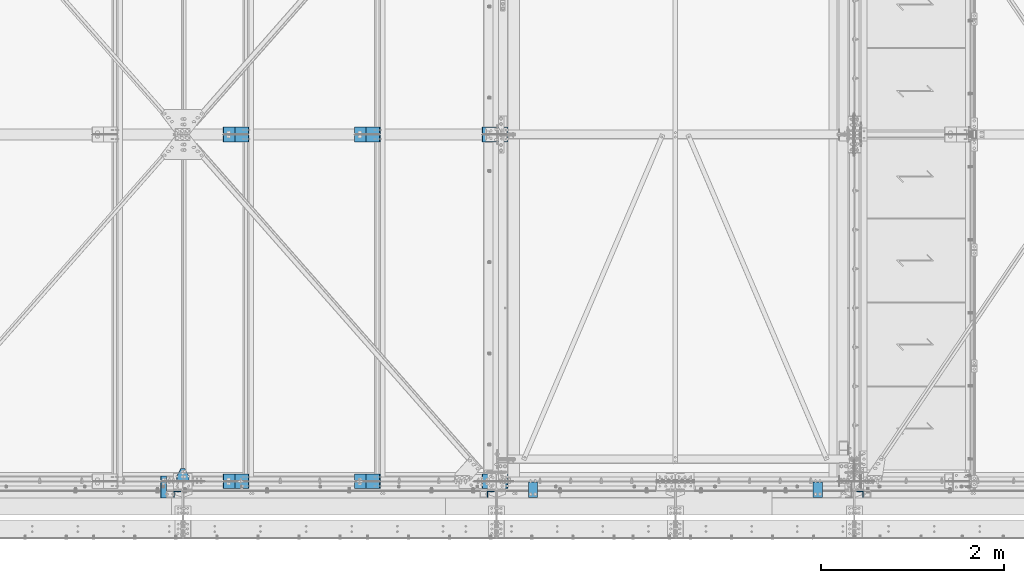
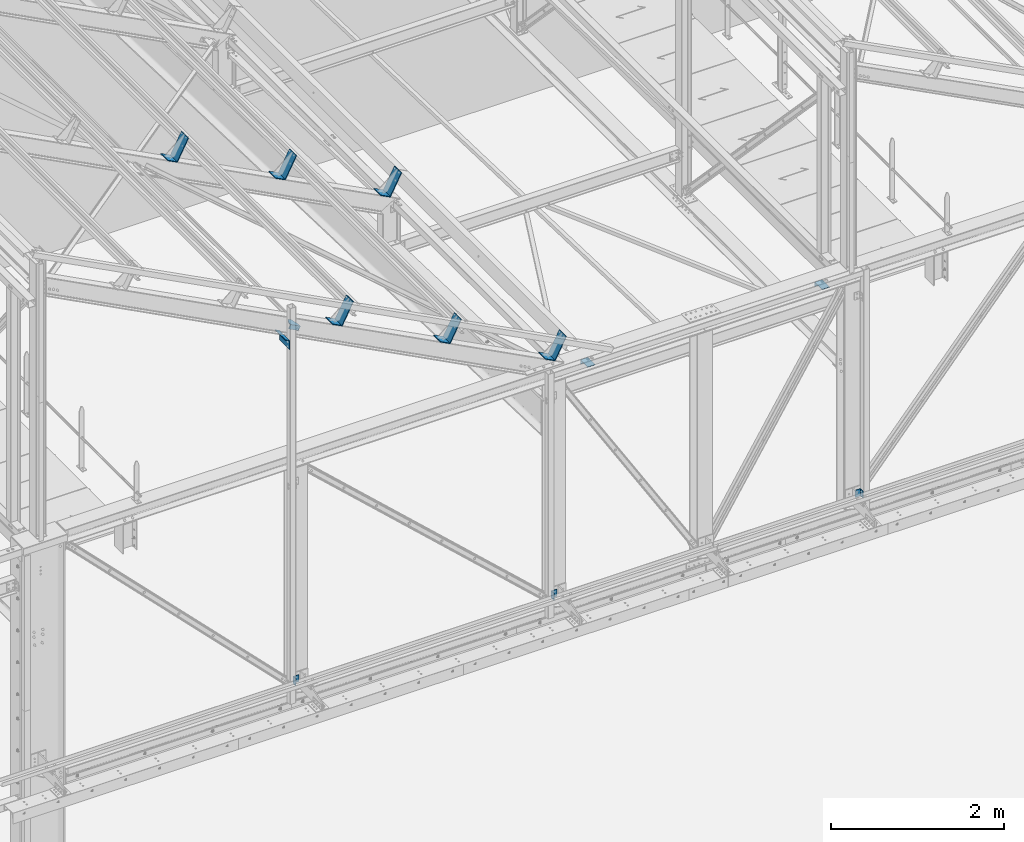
# One storey, part 356 of 362: 13 beams, 13 elements without a shape of their own.
"""IFC2X3 building model written with IfcOpenShell, lengths in millimetres."""

from ifc_helpers import new_model, si_unit, frame, origin_with_axes, place, context, subcontext, project, spatial, faceted_brep, material, type_object, element, aggregate, save


model = new_model("IFC2X3")

# Units and contexts
model_context = context("Model", 3, precision=1e-05, world=origin_with_axes())
body_context = subcontext(model_context, "Body", "Model", "MODEL_VIEW")
ifc_project = project(units=[si_unit("LENGTHUNIT", "METRE", prefix="MILLI"), si_unit("AREAUNIT", "SQUARE_METRE"), si_unit("VOLUMEUNIT", "CUBIC_METRE"), si_unit("MASSUNIT", "GRAM", prefix="KILO"), si_unit("TIMEUNIT", "SECOND"), si_unit("PLANEANGLEUNIT", "RADIAN"), si_unit("SOLIDANGLEUNIT", "STERADIAN"), si_unit("THERMODYNAMICTEMPERATUREUNIT", "DEGREE_CELSIUS"), si_unit("LUMINOUSINTENSITYUNIT", "LUMEN")], contexts=[model_context])

# Site, building, storey
site_placement = place(None, origin_with_axes())
site = spatial("IfcSite", under=ifc_project, at=site_placement, Name="Undefined", CompositionType="ELEMENT")
building_placement = place(site_placement, origin_with_axes())
building = spatial("IfcBuilding", under=site, at=building_placement, Name="Undefined", CompositionType="ELEMENT")
storey_placement = place(building_placement, origin_with_axes())
storey = spatial("IfcBuildingStorey", under=building, at=storey_placement, Name="Undefined", CompositionType="ELEMENT", Elevation=0.0)

# Assembly, beam
assembly_1_placement = place(storey_placement, origin_with_axes())
assembly_1 = element("IfcElementAssembly", 1, at=assembly_1_placement, inside=storey, AssemblyPlace="NOTDEFINED", PredefinedType="NOTDEFINED")
ifc_material = material(Name="Undefined/S235-E24")
beam_type_1 = type_object("IfcBeamType", Name="PL5*100", PredefinedType="NOTDEFINED")
beam_1_placement = place(assembly_1_placement, frame((23567.5080387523, -175.000000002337, 5390.00066228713), z_axis=(0.0, 0.0, 1.0), x_axis=(0.0, 1.0, 0.0)))
beam_1 = element("IfcBeam", 2, at=beam_1_placement, type_object=beam_type_1, material=ifc_material, Name="ATTACHE", ObjectType="PL5*100", context=body_context, shape_type="Brep", body=[
    faceted_brep([(0.0, -2.5, -50.0), (0.0, -2.5, 50.0), (0.0, 2.5, 50.0), (0.0, 2.5, -50.0), (59.9994583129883, 2.5, 50.0), (59.9994583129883, 2.5, -50.0), (64.9994583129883, -2.5, -50.0), (64.9994583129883, -2.5, 50.0), (59.9994583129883, 72.5, 50.0), (59.9994583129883, 72.5, -50.0), (64.9994583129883, 72.5, 50.0), (64.9994583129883, 72.5, -50.0)], [[[0, 1, 2, 3]], [[3, 2, 4, 5]], [[1, 0, 6, 7]], [[5, 4, 8, 9]], [[4, 2, 1, 7, 10, 8]], [[7, 6, 11, 10]], [[6, 0, 3, 5, 9, 11]], [[10, 11, 9, 8]]]),
])
aggregate(assembly_1, [beam_1])

assembly_2_placement = place(storey_placement, origin_with_axes())
assembly_2 = element("IfcElementAssembly", 3, at=assembly_2_placement, inside=storey, AssemblyPlace="NOTDEFINED", PredefinedType="NOTDEFINED")
beam_2_placement = place(assembly_2_placement, frame((19452.5012970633, -175.000000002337, 5390.00066228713), z_axis=(0.0, 0.0, 1.0), x_axis=(0.0, 1.0, 0.0)))
beam_2 = element("IfcBeam", 4, at=beam_2_placement, type_object=beam_type_1, material=ifc_material, Name="ATTACHE", ObjectType="PL5*100", context=body_context, shape_type="Brep", body=[
    faceted_brep([(0.0, -2.5, -50.0), (0.0, -2.5, 50.0), (0.0, 2.5, 50.0), (0.0, 2.5, -50.0), (64.9994583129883, 2.5, 50.0), (64.9994583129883, 2.5, -50.0), (59.9994583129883, -2.5, -50.0), (59.9994583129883, -2.5, 50.0), (64.9994583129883, -72.5, 50.0), (64.9994583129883, -72.5, -50.0), (59.9994583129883, -72.5, 50.0), (59.9994583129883, -72.5, -50.0)], [[[0, 1, 2, 3]], [[3, 2, 4, 5]], [[1, 0, 6, 7]], [[5, 4, 8, 9]], [[4, 2, 1, 7, 10, 8]], [[7, 6, 11, 10]], [[6, 0, 3, 5, 9, 11]], [[10, 11, 9, 8]]]),
])
aggregate(assembly_2, [beam_2])

assembly_3_placement = place(storey_placement, origin_with_axes())
assembly_3 = element("IfcElementAssembly", 5, at=assembly_3_placement, inside=storey, AssemblyPlace="NOTDEFINED", PredefinedType="NOTDEFINED")
beam_3_placement = place(assembly_3_placement, frame((16017.4998811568, -175.000000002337, 5390.00066228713), z_axis=(0.0, 0.0, 1.0), x_axis=(0.0, 1.0, 0.0)))
beam_3 = element("IfcBeam", 6, at=beam_3_placement, type_object=beam_type_1, material=ifc_material, Name="ATTACHE", ObjectType="PL5*100", context=body_context, shape_type="Brep", body=[
    faceted_brep([(0.0, -2.5, -50.0), (0.0, -2.5, 50.0), (0.0, 2.5, 50.0), (0.0, 2.5, -50.0), (64.9994583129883, 2.5, 50.0), (64.9994583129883, 2.5, -50.0), (59.9994583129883, -2.5, -50.0), (59.9994583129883, -2.5, 50.0), (64.9994583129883, -72.5, 50.0), (64.9994583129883, -72.5, -50.0), (59.9994583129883, -72.5, 50.0), (59.9994583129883, -72.5, -50.0)], [[[0, 1, 2, 3]], [[3, 2, 4, 5]], [[1, 0, 6, 7]], [[5, 4, 8, 9]], [[4, 2, 1, 7, 10, 8]], [[7, 6, 11, 10]], [[6, 0, 3, 5, 9, 11]], [[10, 11, 9, 8]]]),
])
aggregate(assembly_3, [beam_3])

assembly_4_placement = place(storey_placement, origin_with_axes())
assembly_4 = element("IfcElementAssembly", 7, at=assembly_4_placement, inside=storey, AssemblyPlace="NOTDEFINED", PredefinedType="NOTDEFINED")
beam_4_placement = place(assembly_4_placement, frame((23069.9997074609, -6.5, 8410.0), z_axis=(-1.0, 0.0, 0.0), x_axis=(0.0, 0.0, 1.0)))
beam_4 = element("IfcBeam", 8, at=beam_4_placement, type_object=beam_type_1, material=ifc_material, Name="ATTACHE", ObjectType="PL5*100", context=body_context, shape_type="Brep", body=[
    faceted_brep([(0.0, -2.5, -50.0), (0.0, -2.5, 50.0), (0.0, 2.5, 50.0), (0.0, 2.5, -50.0), (60.0, 2.5, 50.0), (60.0, 2.5, -50.0), (55.0, -2.5, -50.0), (55.0, -2.5, 50.0), (60.0, -167.5, 50.0), (60.0, -167.5, -50.0), (55.0, -167.5, 50.0), (55.0, -167.5, -50.0)], [[[0, 1, 2, 3]], [[3, 2, 4, 5]], [[1, 0, 6, 7]], [[5, 4, 8, 9]], [[4, 2, 1, 7, 10, 8]], [[7, 6, 11, 10]], [[6, 0, 3, 5, 9, 11]], [[10, 11, 9, 8]]]),
])
aggregate(assembly_4, [beam_4])

assembly_5_placement = place(storey_placement, origin_with_axes())
assembly_5 = element("IfcElementAssembly", 9, at=assembly_5_placement, inside=storey, AssemblyPlace="NOTDEFINED", PredefinedType="NOTDEFINED")
beam_5_placement = place(assembly_5_placement, frame((19949.9997074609, -6.5, 8410.0), z_axis=(-1.0, 0.0, 0.0), x_axis=(0.0, 0.0, 1.0)))
beam_5 = element("IfcBeam", 10, at=beam_5_placement, type_object=beam_type_1, material=ifc_material, Name="ATTACHE", ObjectType="PL5*100", context=body_context, shape_type="Brep", body=[
    faceted_brep([(0.0, -2.5, -50.0), (0.0, -2.5, 50.0), (0.0, 2.5, 50.0), (0.0, 2.5, -50.0), (60.0, 2.5, 50.0), (60.0, 2.5, -50.0), (55.0, -2.5, -50.0), (55.0, -2.5, 50.0), (60.0, -167.5, 50.0), (60.0, -167.5, -50.0), (55.0, -167.5, 50.0), (55.0, -167.5, -50.0)], [[[0, 1, 2, 3]], [[3, 2, 4, 5]], [[1, 0, 6, 7]], [[5, 4, 8, 9]], [[4, 2, 1, 7, 10, 8]], [[7, 6, 11, 10]], [[6, 0, 3, 5, 9, 11]], [[10, 11, 9, 8]]]),
])
aggregate(assembly_5, [beam_5])

assembly_6_placement = place(storey_placement, origin_with_axes())
assembly_6 = element("IfcElementAssembly", 11, at=assembly_6_placement, inside=storey, Name="PANNE SHED", AssemblyPlace="NOTDEFINED", PredefinedType="NOTDEFINED")
beam_type_2 = type_object("IfcBeamType", Name="PL10*160", PredefinedType="NOTDEFINED")
beam_6_placement = place(assembly_6_placement, frame((19671.5182330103, 4.08011983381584e-05, 8921.63209792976), z_axis=(0.0, -1.0, 0.0), x_axis=(-0.463528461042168, 0.0, -0.886082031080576)))
beam_6 = element("IfcBeam", 12, at=beam_6_placement, type_object=beam_type_2, material=ifc_material, Name="PANNE SHED", ObjectType="PL10*160", context=body_context, shape_type="Brep", body=[
    faceted_brep([(5.07934601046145e-08, -5.00000000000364, -80.0), (5.081164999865e-08, -5.0, 80.0), (-5.08007360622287e-08, 5.0, 79.9999999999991), (-5.0815287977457e-08, 4.99999999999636, -80.0000000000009), (329.999999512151, 5.00000335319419, 79.99999999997), (329.999999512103, 5.00000335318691, -80.00000000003), (319.999998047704, -4.9999967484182, -80.0000000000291), (319.999998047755, -4.99999674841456, 79.9999999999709), (330.000011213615, -145.000008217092, 80.0000000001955), (330.000011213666, -145.000008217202, -79.9999999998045), (320.000011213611, -145.000008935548, 80.0000000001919), (320.000011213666, -145.000008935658, -79.9999999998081)], [[[0, 1, 2, 3]], [[3, 2, 4, 5]], [[1, 0, 6, 7]], [[5, 4, 8, 9]], [[4, 2, 1, 7, 10, 8]], [[7, 6, 11, 10]], [[6, 0, 3, 5, 9, 11]], [[10, 11, 9, 8]]]),
])
aggregate(assembly_6, [beam_6])

assembly_7_placement = place(storey_placement, origin_with_axes())
assembly_7 = element("IfcElementAssembly", 13, at=assembly_7_placement, inside=storey, Name="PANNE SHED", AssemblyPlace="NOTDEFINED", PredefinedType="NOTDEFINED")
beam_7_placement = place(assembly_7_placement, frame((18274.0919032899, 4.08011983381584e-05, 9652.65559895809), z_axis=(0.0, -1.0, 0.0), x_axis=(-0.463528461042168, 0.0, -0.886082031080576)))
beam_7 = element("IfcBeam", 14, at=beam_7_placement, type_object=beam_type_2, material=ifc_material, Name="PANNE SHED", ObjectType="PL10*160", context=body_context, shape_type="Brep", body=[
    faceted_brep([(5.07934601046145e-08, -5.00000000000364, -80.0), (5.081164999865e-08, -5.0, 80.0), (-5.08007360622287e-08, 5.0, 79.9999999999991), (-5.0815287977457e-08, 4.99999999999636, -80.0000000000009), (329.999999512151, 5.00000335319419, 79.99999999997), (329.999999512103, 5.00000335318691, -80.00000000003), (319.999998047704, -4.9999967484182, -80.0000000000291), (319.999998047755, -4.99999674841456, 79.9999999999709), (330.000011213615, -145.000008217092, 80.0000000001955), (330.000011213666, -145.000008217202, -79.9999999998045), (320.000011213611, -145.000008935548, 80.0000000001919), (320.000011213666, -145.000008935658, -79.9999999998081)], [[[0, 1, 2, 3]], [[3, 2, 4, 5]], [[1, 0, 6, 7]], [[5, 4, 8, 9]], [[4, 2, 1, 7, 10, 8]], [[7, 6, 11, 10]], [[6, 0, 3, 5, 9, 11]], [[10, 11, 9, 8]]]),
])
aggregate(assembly_7, [beam_7])

assembly_8_placement = place(storey_placement, origin_with_axes())
assembly_8 = element("IfcElementAssembly", 15, at=assembly_8_placement, inside=storey, Name="PANNE SHED", AssemblyPlace="NOTDEFINED", PredefinedType="NOTDEFINED")
beam_8_placement = place(assembly_8_placement, frame((16836.7918380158, 4.08011983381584e-05, 10404.5379010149), z_axis=(0.0, -1.0, 0.0), x_axis=(-0.463528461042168, 0.0, -0.886082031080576)))
beam_8 = element("IfcBeam", 16, at=beam_8_placement, type_object=beam_type_2, material=ifc_material, Name="PANNE SHED", ObjectType="PL10*160", context=body_context, shape_type="Brep", body=[
    faceted_brep([(5.07934601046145e-08, -5.00000000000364, -80.0), (5.081164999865e-08, -5.0, 80.0), (-5.08007360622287e-08, 5.0, 79.9999999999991), (-5.0815287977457e-08, 4.99999999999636, -80.0000000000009), (329.999999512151, 5.00000335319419, 79.99999999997), (329.999999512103, 5.00000335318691, -80.00000000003), (319.999998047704, -4.9999967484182, -80.0000000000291), (319.999998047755, -4.99999674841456, 79.9999999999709), (330.000011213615, -145.000008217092, 80.0000000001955), (330.000011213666, -145.000008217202, -79.9999999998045), (320.000011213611, -145.000008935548, 80.0000000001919), (320.000011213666, -145.000008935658, -79.9999999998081)], [[[0, 1, 2, 3]], [[3, 2, 4, 5]], [[1, 0, 6, 7]], [[5, 4, 8, 9]], [[4, 2, 1, 7, 10, 8]], [[7, 6, 11, 10]], [[6, 0, 3, 5, 9, 11]], [[10, 11, 9, 8]]]),
])
aggregate(assembly_8, [beam_8])

assembly_9_placement = place(storey_placement, origin_with_axes())
assembly_9 = element("IfcElementAssembly", 17, at=assembly_9_placement, inside=storey, Name="PANNE SHED", AssemblyPlace="NOTDEFINED", PredefinedType="NOTDEFINED")
beam_9_placement = place(assembly_9_placement, frame((19671.5182330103, 3800.0000408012, 8921.63209792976), z_axis=(0.0, -1.0, 0.0), x_axis=(-0.463528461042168, 0.0, -0.886082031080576)))
beam_9 = element("IfcBeam", 18, at=beam_9_placement, type_object=beam_type_2, material=ifc_material, Name="PANNE SHED", ObjectType="PL10*160", context=body_context, shape_type="Brep", body=[
    faceted_brep([(5.07934601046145e-08, -5.00000000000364, -80.0), (5.081164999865e-08, -5.0, 80.0), (-5.08007360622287e-08, 5.0, 79.9999999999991), (-5.0815287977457e-08, 4.99999999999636, -80.0000000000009), (329.999999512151, 5.00000335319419, 79.99999999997), (329.999999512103, 5.00000335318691, -80.00000000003), (319.999998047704, -4.9999967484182, -80.0000000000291), (319.999998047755, -4.99999674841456, 79.9999999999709), (330.000011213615, -145.000008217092, 80.0000000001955), (330.000011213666, -145.000008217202, -79.9999999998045), (320.000011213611, -145.000008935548, 80.0000000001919), (320.000011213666, -145.000008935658, -79.9999999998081)], [[[0, 1, 2, 3]], [[3, 2, 4, 5]], [[1, 0, 6, 7]], [[5, 4, 8, 9]], [[4, 2, 1, 7, 10, 8]], [[7, 6, 11, 10]], [[6, 0, 3, 5, 9, 11]], [[10, 11, 9, 8]]]),
])
aggregate(assembly_9, [beam_9])

assembly_10_placement = place(storey_placement, origin_with_axes())
assembly_10 = element("IfcElementAssembly", 19, at=assembly_10_placement, inside=storey, Name="PANNE SHED", AssemblyPlace="NOTDEFINED", PredefinedType="NOTDEFINED")
beam_10_placement = place(assembly_10_placement, frame((18274.0919032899, 3800.0000408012, 9652.65559895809), z_axis=(0.0, -1.0, 0.0), x_axis=(-0.463528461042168, 0.0, -0.886082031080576)))
beam_10 = element("IfcBeam", 20, at=beam_10_placement, type_object=beam_type_2, material=ifc_material, Name="PANNE SHED", ObjectType="PL10*160", context=body_context, shape_type="Brep", body=[
    faceted_brep([(5.07934601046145e-08, -5.00000000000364, -80.0), (5.081164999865e-08, -5.0, 80.0), (-5.08007360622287e-08, 5.0, 79.9999999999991), (-5.0815287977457e-08, 4.99999999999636, -80.0000000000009), (329.999999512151, 5.00000335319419, 79.99999999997), (329.999999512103, 5.00000335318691, -80.00000000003), (319.999998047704, -4.9999967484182, -80.0000000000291), (319.999998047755, -4.99999674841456, 79.9999999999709), (330.000011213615, -145.000008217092, 80.0000000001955), (330.000011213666, -145.000008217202, -79.9999999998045), (320.000011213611, -145.000008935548, 80.0000000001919), (320.000011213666, -145.000008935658, -79.9999999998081)], [[[0, 1, 2, 3]], [[3, 2, 4, 5]], [[1, 0, 6, 7]], [[5, 4, 8, 9]], [[4, 2, 1, 7, 10, 8]], [[7, 6, 11, 10]], [[6, 0, 3, 5, 9, 11]], [[10, 11, 9, 8]]]),
])
aggregate(assembly_10, [beam_10])

assembly_11_placement = place(storey_placement, origin_with_axes())
assembly_11 = element("IfcElementAssembly", 21, at=assembly_11_placement, inside=storey, Name="PANNE SHED", AssemblyPlace="NOTDEFINED", PredefinedType="NOTDEFINED")
beam_11_placement = place(assembly_11_placement, frame((16836.7918380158, 3800.0000408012, 10404.5379010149), z_axis=(0.0, -1.0, 0.0), x_axis=(-0.463528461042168, 0.0, -0.886082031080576)))
beam_11 = element("IfcBeam", 22, at=beam_11_placement, type_object=beam_type_2, material=ifc_material, Name="PANNE SHED", ObjectType="PL10*160", context=body_context, shape_type="Brep", body=[
    faceted_brep([(5.07934601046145e-08, -5.00000000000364, -80.0), (5.081164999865e-08, -5.0, 80.0), (-5.08007360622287e-08, 5.0, 79.9999999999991), (-5.0815287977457e-08, 4.99999999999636, -80.0000000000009), (329.999999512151, 5.00000335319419, 79.99999999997), (329.999999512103, 5.00000335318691, -80.00000000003), (319.999998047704, -4.9999967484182, -80.0000000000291), (319.999998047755, -4.99999674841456, 79.9999999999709), (330.000011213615, -145.000008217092, 80.0000000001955), (330.000011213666, -145.000008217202, -79.9999999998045), (320.000011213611, -145.000008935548, 80.0000000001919), (320.000011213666, -145.000008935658, -79.9999999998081)], [[[0, 1, 2, 3]], [[3, 2, 4, 5]], [[1, 0, 6, 7]], [[5, 4, 8, 9]], [[4, 2, 1, 7, 10, 8]], [[7, 6, 11, 10]], [[6, 0, 3, 5, 9, 11]], [[10, 11, 9, 8]]]),
])
aggregate(assembly_11, [beam_11])

assembly_12_placement = place(storey_placement, origin_with_axes())
assembly_12 = element("IfcElementAssembly", 23, at=assembly_12_placement, inside=storey, AssemblyPlace="NOTDEFINED", PredefinedType="NOTDEFINED")
beam_type_3 = type_object("IfcBeamType", Name="PL5*240", PredefinedType="NOTDEFINED")
beam_12_placement = place(assembly_12_placement, frame((15932.4998811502, -59.9999999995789, 10103.0031609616), z_axis=(0.0, -1.0, 0.0), x_axis=(0.0, 0.0, 1.0)))
beam_12 = element("IfcBeam", 24, at=beam_12_placement, type_object=beam_type_3, material=ifc_material, Name="ATTACHE", ObjectType="PL5*240", context=body_context, shape_type="Brep", body=[
    faceted_brep([(1.81898940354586e-12, -2.5, -120.0), (1.81898940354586e-12, -2.5, 120.0), (-1.81898940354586e-12, 2.5, 120.0), (-1.81898940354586e-12, 2.5, -120.0), (126.972788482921, 2.50000000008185, 120.0), (126.972788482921, 2.50000000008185, -120.0), (130.000000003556, -2.49999999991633, -120.0), (130.000000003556, -2.49999999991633, 120.0), (158.016580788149, 61.8433838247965, 120.0), (158.016580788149, 61.8433838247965, -120.0), (162.446990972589, 59.5257415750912, 120.0), (162.446990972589, 59.5257415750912, -120.0)], [[[0, 1, 2, 3]], [[3, 2, 4, 5]], [[1, 0, 6, 7]], [[5, 4, 8, 9]], [[4, 2, 1, 7, 10, 8]], [[7, 6, 11, 10]], [[6, 0, 3, 5, 9, 11]], [[10, 11, 9, 8]]]),
])
aggregate(assembly_12, [beam_12])

assembly_13_placement = place(storey_placement, origin_with_axes())
assembly_13 = element("IfcElementAssembly", 25, at=assembly_13_placement, inside=storey, AssemblyPlace="NOTDEFINED", PredefinedType="NOTDEFINED")
beam_type_4 = type_object("IfcBeamType", Name="PL6*150", PredefinedType="NOTDEFINED")
beam_13_placement = place(assembly_13_placement, frame((16113.6094602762, 140.000103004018, 10271.6107368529), z_axis=(-0.886081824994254, 0.0, 0.463528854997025), x_axis=(0.0, -1.0, 0.0)))
beam_13 = element("IfcBeam", 26, at=beam_13_placement, type_object=beam_type_4, material=ifc_material, Name="ATTACHE", ObjectType="PL6*150", context=body_context, shape_type="Brep", body=[
    faceted_brep([(86.4999995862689, -2.9999999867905, 75.0000000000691), (86.4999996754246, 3.0000000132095, 75.0000000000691), (-4.78621586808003e-10, 3.00000000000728, 25.0001101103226), (4.37211156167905e-10, -2.99999999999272, 25.0001101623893), (130.499999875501, -2.99999997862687, 75.0000000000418), (130.499998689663, -57.0000005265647, 75.0000000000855), (136.499998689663, -57.0000006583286, 75.0000000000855), (136.500000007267, 3.00000002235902, 75.0000000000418), (130.499999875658, -2.99999997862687, -74.9999999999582), (130.499998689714, -57.0000005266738, -74.9999999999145), (136.499998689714, -57.0000006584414, -74.9999999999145), (136.500000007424, 3.00000002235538, -74.9999999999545), (86.5000004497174, 3.0000000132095, -74.9999999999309), (-4.37211156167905e-10, 3.00000000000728, -24.9998900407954), (4.78621586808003e-10, -2.99999999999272, -24.9998900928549), (86.5000003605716, -2.99999998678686, -74.9999999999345)], [[[0, 1, 2, 3]], [[4, 5, 6, 7, 1, 0]], [[4, 8, 9, 5]], [[5, 9, 10, 6]], [[11, 7, 6, 10]], [[2, 1, 7, 11, 12, 13]], [[3, 2, 13, 14]], [[8, 4, 0, 3, 14, 15]], [[11, 10, 9, 8, 15, 12]], [[14, 13, 12, 15]]]),
])
aggregate(assembly_13, [beam_13])

save(model, "model.ifc")
